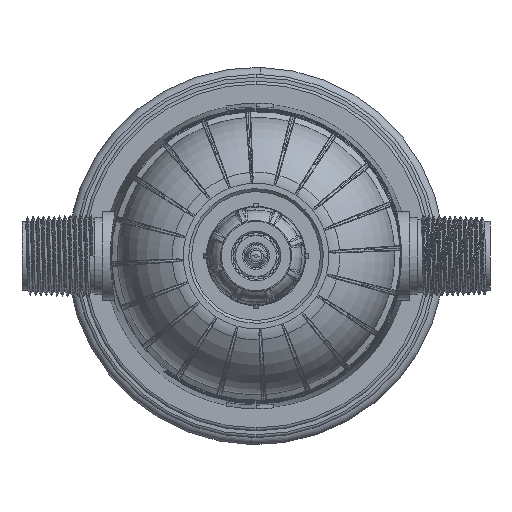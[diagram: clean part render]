
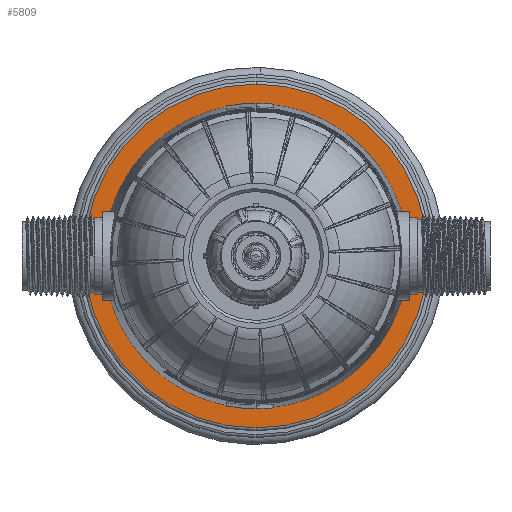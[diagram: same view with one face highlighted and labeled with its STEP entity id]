
A CAD part, front view. The second image highlights one B-rep face of the part: STEP entity #5809.
In plain terms, the highlighted planar face has unit normal (0, -1, 0).
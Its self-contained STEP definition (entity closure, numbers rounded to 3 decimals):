
#5809 = ADVANCED_FACE ( 'NONE', ( #224158, #224165 ), #23030, .F. ) ;
#23028 = CARTESIAN_POINT ( 'NONE',  ( 0., -27.7, 0. ) ) ;
#23030 = PLANE ( 'NONE',  #184912 ) ;
#23038 = DIRECTION ( 'NONE',  ( 0., 1., 0. ) ) ;
#23041 = DIRECTION ( 'NONE',  ( 0., 0., 1. ) ) ;
#36523 = EDGE_CURVE ( 'NONE', #177074, #43223, #50665, .T. ) ;
#36651 = EDGE_CURVE ( 'NONE', #175998, #176014, #50855, .T. ) ;
#36732 = EDGE_CURVE ( 'NONE', #45326, #45329, #50941, .T. ) ;
#36733 = EDGE_CURVE ( 'NONE', #45328, #45329, #50936, .T. ) ;
#36737 = EDGE_CURVE ( 'NONE', #45325, #45322, #50954, .T. ) ;
#36739 = EDGE_CURVE ( 'NONE', #45323, #175998, #50953, .T. ) ;
#36742 = EDGE_CURVE ( 'NONE', #45328, #45327, #50962, .T. ) ;
#36821 = EDGE_CURVE ( 'NONE', #45322, #45323, #51001, .T. ) ;
#36823 = EDGE_CURVE ( 'NONE', #176014, #45327, #51007, .T. ) ;
#36924 = EDGE_CURVE ( 'NONE', #45326, #45325, #51092, .T. ) ;
#39666 = AXIS2_PLACEMENT_3D ( 'NONE', #59406, #59407, #59408 ) ;
#39767 = AXIS2_PLACEMENT_3D ( 'NONE', #62094, #62100, #62101 ) ;
#39902 = AXIS2_PLACEMENT_3D ( 'NONE', #72397, #72403, #72406 ) ;
#39972 = AXIS2_PLACEMENT_3D ( 'NONE', #83124, #83129, #83132 ) ;
#43223 = VERTEX_POINT ( 'NONE', #124028 ) ;
#45322 = VERTEX_POINT ( 'NONE', #135422 ) ;
#45323 = VERTEX_POINT ( 'NONE', #135425 ) ;
#45325 = VERTEX_POINT ( 'NONE', #135431 ) ;
#45326 = VERTEX_POINT ( 'NONE', #135434 ) ;
#45327 = VERTEX_POINT ( 'NONE', #135437 ) ;
#45328 = VERTEX_POINT ( 'NONE', #135440 ) ;
#45329 = VERTEX_POINT ( 'NONE', #135443 ) ;
#46151 = EDGE_LOOP ( 'NONE', ( #63785, #63787 ) ) ;
#46154 = EDGE_LOOP ( 'NONE', ( #63789, #63792, #63794, #63796, #63798, #63800, #63803, #63805, #63807 ) ) ;
#50665 = CIRCLE ( 'NONE', #39666, 58.8 ) ;
#50855 = CIRCLE ( 'NONE', #39767, 52. ) ;
#50936 = LINE ( 'NONE', #63387, #50949 ) ;
#50941 = LINE ( 'NONE', #63281, #50947 ) ;
#50947 = VECTOR ( 'NONE', #63391, 1000. ) ;
#50949 = VECTOR ( 'NONE', #63395, 1000. ) ;
#50950 = VECTOR ( 'NONE', #63425, 1000. ) ;
#50953 = LINE ( 'NONE', #63423, #50950 ) ;
#50954 = LINE ( 'NONE', #63389, #50956 ) ;
#50956 = VECTOR ( 'NONE', #63415, 1000. ) ;
#50962 = LINE ( 'NONE', #63434, #50963 ) ;
#50963 = VECTOR ( 'NONE', #64742, 1000. ) ;
#51001 = LINE ( 'NONE', #72382, #51002 ) ;
#51002 = VECTOR ( 'NONE', #72385, 1000. ) ;
#51007 = CIRCLE ( 'NONE', #39902, 52. ) ;
#51092 = CIRCLE ( 'NONE', #39972, 52. ) ;
#59406 = CARTESIAN_POINT ( 'NONE',  ( 0., -27.7, 0. ) ) ;
#59407 = DIRECTION ( 'NONE',  ( 0., -1., 0. ) ) ;
#59408 = DIRECTION ( 'NONE',  ( 0., 0., 1. ) ) ;
#62094 = CARTESIAN_POINT ( 'NONE',  ( 0., -27.7, 0. ) ) ;
#62100 = DIRECTION ( 'NONE',  ( 0., 1., 0. ) ) ;
#62101 = DIRECTION ( 'NONE',  ( 0., 0., 1. ) ) ;
#63281 = CARTESIAN_POINT ( 'NONE',  ( -80.001, -27.7, -7.95 ) ) ;
#63387 = CARTESIAN_POINT ( 'NONE',  ( 52.5, -27.7, 0. ) ) ;
#63389 = CARTESIAN_POINT ( 'NONE',  ( 57.151, -27.7, -7.95 ) ) ;
#63391 = DIRECTION ( 'NONE',  ( 1., 0., 0. ) ) ;
#63395 = DIRECTION ( 'NONE',  ( 0., 0., -1. ) ) ;
#63415 = DIRECTION ( 'NONE',  ( -1., 0., 0. ) ) ;
#63423 = CARTESIAN_POINT ( 'NONE',  ( 57.151, -27.7, 7.95 ) ) ;
#63425 = DIRECTION ( 'NONE',  ( 1., 0., 0. ) ) ;
#63434 = CARTESIAN_POINT ( 'NONE',  ( -80.001, -27.7, 7.95 ) ) ;
#63785 = ORIENTED_EDGE ( 'NONE', *, *, #69358, .T. ) ;
#63787 = ORIENTED_EDGE ( 'NONE', *, *, #36523, .T. ) ;
#63789 = ORIENTED_EDGE ( 'NONE', *, *, #36924, .T. ) ;
#63792 = ORIENTED_EDGE ( 'NONE', *, *, #36737, .T. ) ;
#63794 = ORIENTED_EDGE ( 'NONE', *, *, #36821, .T. ) ;
#63796 = ORIENTED_EDGE ( 'NONE', *, *, #36739, .T. ) ;
#63798 = ORIENTED_EDGE ( 'NONE', *, *, #36651, .T. ) ;
#63800 = ORIENTED_EDGE ( 'NONE', *, *, #36823, .T. ) ;
#63803 = ORIENTED_EDGE ( 'NONE', *, *, #36742, .F. ) ;
#63805 = ORIENTED_EDGE ( 'NONE', *, *, #36733, .T. ) ;
#63807 = ORIENTED_EDGE ( 'NONE', *, *, #36732, .F. ) ;
#64742 = DIRECTION ( 'NONE',  ( -1., 0., 0. ) ) ;
#69358 = EDGE_CURVE ( 'NONE', #43223, #177074, #221446, .T. ) ;
#72382 = CARTESIAN_POINT ( 'NONE',  ( -52.5, -27.7, 0. ) ) ;
#72385 = DIRECTION ( 'NONE',  ( 0., 0., 1. ) ) ;
#72397 = CARTESIAN_POINT ( 'NONE',  ( 0., -27.7, 0. ) ) ;
#72403 = DIRECTION ( 'NONE',  ( 0., 1., 0. ) ) ;
#72406 = DIRECTION ( 'NONE',  ( 0., 0., 1. ) ) ;
#83124 = CARTESIAN_POINT ( 'NONE',  ( 0., -27.7, 0. ) ) ;
#83129 = DIRECTION ( 'NONE',  ( 0., 1., 0. ) ) ;
#83132 = DIRECTION ( 'NONE',  ( 0., 0., 1. ) ) ;
#124028 = CARTESIAN_POINT ( 'NONE',  ( 0., -27.7, 58.8 ) ) ;
#135124 = CARTESIAN_POINT ( 'NONE',  ( -51.389, -27.7, 7.95 ) ) ;
#135148 = CARTESIAN_POINT ( 'NONE',  ( 0., -27.7, 52. ) ) ;
#135422 = CARTESIAN_POINT ( 'NONE',  ( -52.5, -27.7, -7.95 ) ) ;
#135425 = CARTESIAN_POINT ( 'NONE',  ( -52.5, -27.7, 7.95 ) ) ;
#135431 = CARTESIAN_POINT ( 'NONE',  ( -51.389, -27.7, -7.95 ) ) ;
#135434 = CARTESIAN_POINT ( 'NONE',  ( 51.389, -27.7, -7.95 ) ) ;
#135437 = CARTESIAN_POINT ( 'NONE',  ( 51.389, -27.7, 7.95 ) ) ;
#135440 = CARTESIAN_POINT ( 'NONE',  ( 52.5, -27.7, 7.95 ) ) ;
#135443 = CARTESIAN_POINT ( 'NONE',  ( 52.5, -27.7, -7.95 ) ) ;
#136911 = CARTESIAN_POINT ( 'NONE',  ( 0., -27.7, -58.8 ) ) ;
#158693 = AXIS2_PLACEMENT_3D ( 'NONE', #217622, #217628, #217629 ) ;
#175998 = VERTEX_POINT ( 'NONE', #135124 ) ;
#176014 = VERTEX_POINT ( 'NONE', #135148 ) ;
#177074 = VERTEX_POINT ( 'NONE', #136911 ) ;
#184912 = AXIS2_PLACEMENT_3D ( 'NONE', #23028, #23038, #23041 ) ;
#217622 = CARTESIAN_POINT ( 'NONE',  ( 0., -27.7, 0. ) ) ;
#217628 = DIRECTION ( 'NONE',  ( 0., -1., 0. ) ) ;
#217629 = DIRECTION ( 'NONE',  ( 0., 0., 1. ) ) ;
#221446 = CIRCLE ( 'NONE', #158693, 58.8 ) ;
#224158 = FACE_OUTER_BOUND ( 'NONE', #46151, .T. ) ;
#224165 = FACE_BOUND ( 'NONE', #46154, .T. ) ;
